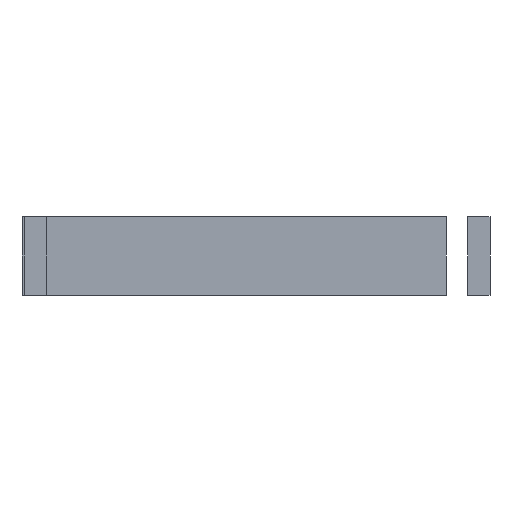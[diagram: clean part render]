
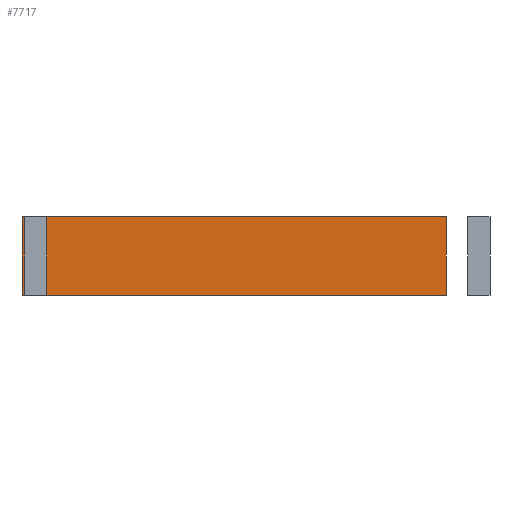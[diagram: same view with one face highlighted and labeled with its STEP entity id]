
A CAD part, left-side view. The second image highlights one B-rep face of the part: STEP entity #7717.
In plain terms, the highlighted planar face has unit normal (-1, 0, 0).
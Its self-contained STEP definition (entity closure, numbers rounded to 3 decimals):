
#7717 = ADVANCED_FACE('',(#7718),#7752,.F.);
#7718 = FACE_BOUND('',#7719,.F.);
#7719 = EDGE_LOOP('',(#7720,#7730,#7738,#7746));
#7720 = ORIENTED_EDGE('',*,*,#7721,.F.);
#7721 = EDGE_CURVE('',#7722,#7724,#7726,.T.);
#7722 = VERTEX_POINT('',#7723);
#7723 = CARTESIAN_POINT('',(92.775,6.094,0.));
#7724 = VERTEX_POINT('',#7725);
#7725 = CARTESIAN_POINT('',(92.775,6.094,8.5));
#7726 = LINE('',#7727,#7728);
#7727 = CARTESIAN_POINT('',(92.775,6.094,0.));
#7728 = VECTOR('',#7729,1.);
#7729 = DIRECTION('',(0.,0.,1.));
#7730 = ORIENTED_EDGE('',*,*,#7731,.T.);
#7731 = EDGE_CURVE('',#7722,#7732,#7734,.T.);
#7732 = VERTEX_POINT('',#7733);
#7733 = CARTESIAN_POINT('',(92.775,52.324,0.));
#7734 = LINE('',#7735,#7736);
#7735 = CARTESIAN_POINT('',(92.775,6.094,0.));
#7736 = VECTOR('',#7737,1.);
#7737 = DIRECTION('',(-0.,1.,0.));
#7738 = ORIENTED_EDGE('',*,*,#7739,.T.);
#7739 = EDGE_CURVE('',#7732,#7740,#7742,.T.);
#7740 = VERTEX_POINT('',#7741);
#7741 = CARTESIAN_POINT('',(92.775,52.324,8.5));
#7742 = LINE('',#7743,#7744);
#7743 = CARTESIAN_POINT('',(92.775,52.324,0.));
#7744 = VECTOR('',#7745,1.);
#7745 = DIRECTION('',(0.,0.,1.));
#7746 = ORIENTED_EDGE('',*,*,#7747,.F.);
#7747 = EDGE_CURVE('',#7724,#7740,#7748,.T.);
#7748 = LINE('',#7749,#7750);
#7749 = CARTESIAN_POINT('',(92.775,6.094,8.5));
#7750 = VECTOR('',#7751,1.);
#7751 = DIRECTION('',(-0.,1.,0.));
#7752 = PLANE('',#7753);
#7753 = AXIS2_PLACEMENT_3D('',#7754,#7755,#7756);
#7754 = CARTESIAN_POINT('',(92.775,6.094,0.));
#7755 = DIRECTION('',(1.,0.,-0.));
#7756 = DIRECTION('',(0.,0.,1.));
